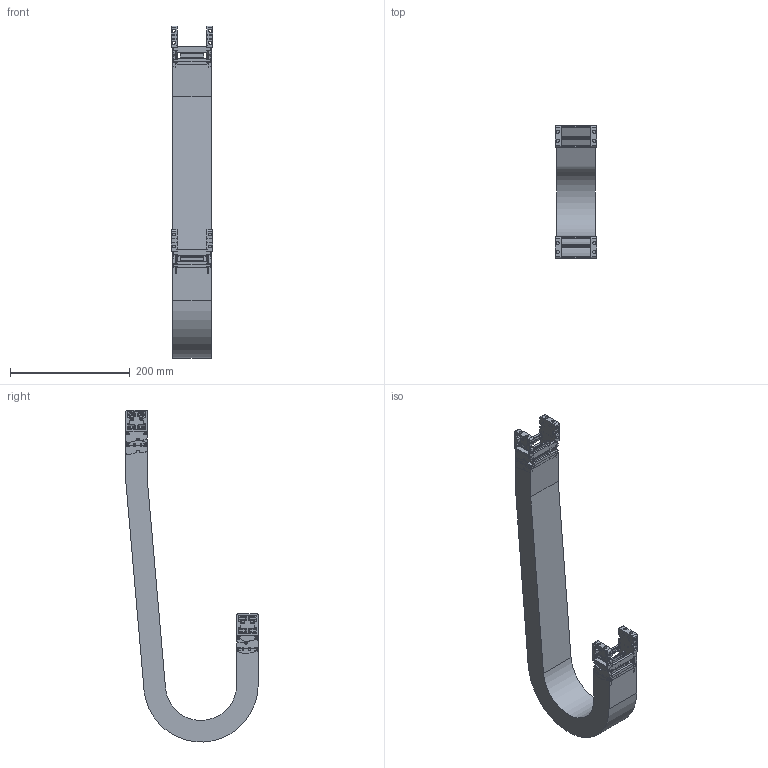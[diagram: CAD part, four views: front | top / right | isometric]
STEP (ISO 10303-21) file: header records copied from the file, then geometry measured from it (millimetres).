
FILE_DESCRIPTION((''),'2;1');
FILE_NAME('KST-25050-075_ASM','2017-12-05T',('KUNI004K'),(''),'PRO/ENGINEER BY PARAMETRIC TECHNOLOGY CORPORATION, 2015200','PRO/ENGINEER BY PARAMETRIC TECHNOLOGY CORPORATION, 2015200','');
FILE_SCHEMA(('AUTOMOTIVE_DESIGN { 1 0 10303 214 1 1 1 1 }'));
Length unit declared in the file: millimetre
Products named in the file (13): 25FBR; 25FBL; 25050C; KST25FBR_W050_ASM; 25075R; 25075L; 25050H; KST25050-075_1_ASM; KST25050_R75_BODY; 25MBR; 25MBL; KST25MBR_W050_ASM; KST-25050-075_ASM
Assembly tree (19 placements, depth 3):
  KST-25050-075_ASM
    KST25FBR_W050_ASM
      25FBR
      25FBL
      25050C  x2
    KST25050-075_1_ASM  x2
      25075R
      25075L
      25050C
      25050H
    KST25050_R75_BODY
    KST25MBR_W050_ASM
      25MBR
      25MBL
      25050C  x2
Bounding box: 70 x 221 x 554.21 mm (x, y, z)
Volume: 831587.8 mm3; surface area: 384829.9 mm2
Topology: 21 solids, 21 shells, 2564 faces, 7130 edges, 4624 vertices
Faces by surface type: plane 1330, cylinder 930, bspline 208, sphere 64, torus 32
Entity records: 69575 total; most frequent: CARTESIAN_POINT 15226, ORIENTED_EDGE 7396, DIRECTION 6500, PRESENTATION_STYLE_ASSIGNMENT 4998, STYLED_ITEM 4998, CURVE_STYLE 3698, EDGE_CURVE 3698, VECTOR 2454
